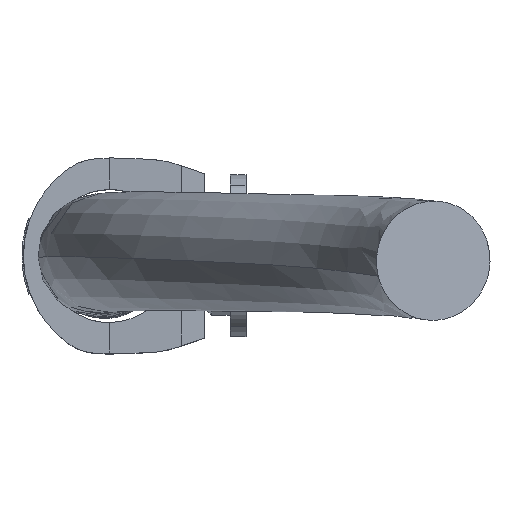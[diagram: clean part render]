
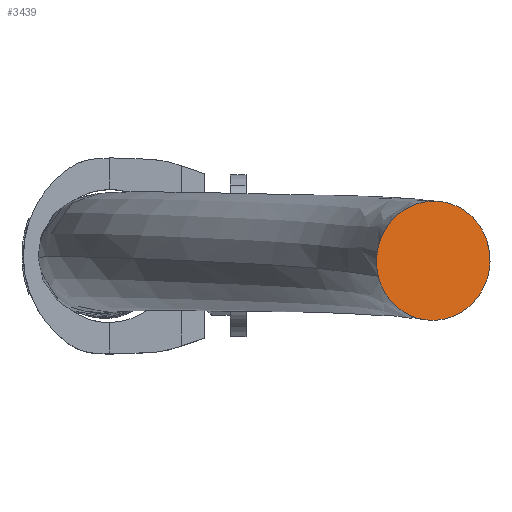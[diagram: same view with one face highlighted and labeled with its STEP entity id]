
A CAD part, left-side view. The second image highlights one B-rep face of the part: STEP entity #3439.
In plain terms, the highlighted planar face has unit normal (-0.951, -0.308, -0.036).
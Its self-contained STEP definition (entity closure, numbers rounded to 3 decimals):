
#52 = CARTESIAN_POINT ( 'NONE',  ( 642.772, 3.286, 2268.062 ) ) ;
#55 = CARTESIAN_POINT ( 'NONE',  ( 616.808, 86.195, 2244.568 ) ) ;
#679 = CARTESIAN_POINT ( 'NONE',  ( 629.79, 44.74, 2256.315 ) ) ;
#681 = PLANE ( 'NONE',  #4286 ) ;
#996 = EDGE_LOOP ( 'NONE', ( #4829, #4396 ) ) ;
#1549 = DIRECTION ( 'NONE',  ( -0.309, 0.95, 0.033 ) ) ;
#1550 = DIRECTION ( 'NONE',  ( -0.951, -0.308, -0.036 ) ) ;
#1812 = CARTESIAN_POINT ( 'NONE',  ( 642.772, 3.286, 2268.062 ) ) ;
#1813 = CARTESIAN_POINT ( 'NONE',  ( 643.442, 1.886, 2262.379 ) ) ;
#1818 = CARTESIAN_POINT ( 'NONE',  ( 643.774, 1.565, 2256.394 ) ) ;
#1819 = CARTESIAN_POINT ( 'NONE',  ( 643.711, 3.13, 2244.717 ) ) ;
#1820 = CARTESIAN_POINT ( 'NONE',  ( 643.317, 5.016, 2239.031 ) ) ;
#1821 = CARTESIAN_POINT ( 'NONE',  ( 641.861, 10.71, 2228.821 ) ) ;
#1822 = CARTESIAN_POINT ( 'NONE',  ( 640.8, 14.516, 2224.3 ) ) ;
#1823 = CARTESIAN_POINT ( 'NONE',  ( 638.173, 23.471, 2217.11 ) ) ;
#1824 = CARTESIAN_POINT ( 'NONE',  ( 636.608, 28.616, 2214.443 ) ) ;
#1825 = CARTESIAN_POINT ( 'NONE',  ( 633.209, 39.469, 2211.368 ) ) ;
#1826 = CARTESIAN_POINT ( 'NONE',  ( 631.377, 45.172, 2210.961 ) ) ;
#1827 = CARTESIAN_POINT ( 'NONE',  ( 627.724, 56.27, 2212.468 ) ) ;
#1828 = CARTESIAN_POINT ( 'NONE',  ( 625.905, 61.662, 2214.383 ) ) ;
#1829 = CARTESIAN_POINT ( 'NONE',  ( 622.554, 71.316, 2220.244 ) ) ;
#1830 = CARTESIAN_POINT ( 'NONE',  ( 621.024, 75.575, 2224.189 ) ) ;
#1831 = CARTESIAN_POINT ( 'NONE',  ( 618.485, 82.316, 2233.511 ) ) ;
#1832 = CARTESIAN_POINT ( 'NONE',  ( 617.478, 84.795, 2238.886 ) ) ;
#1833 = CARTESIAN_POINT ( 'NONE',  ( 616.808, 86.195, 2244.568 ) ) ;
#2515 = CARTESIAN_POINT ( 'NONE',  ( 616.808, 86.195, 2244.568 ) ) ;
#2516 = CARTESIAN_POINT ( 'NONE',  ( 616.138, 87.595, 2250.25 ) ) ;
#2521 = CARTESIAN_POINT ( 'NONE',  ( 615.806, 87.916, 2256.236 ) ) ;
#2522 = CARTESIAN_POINT ( 'NONE',  ( 615.868, 86.351, 2267.912 ) ) ;
#2523 = CARTESIAN_POINT ( 'NONE',  ( 616.263, 84.465, 2273.598 ) ) ;
#2524 = CARTESIAN_POINT ( 'NONE',  ( 617.719, 78.771, 2283.809 ) ) ;
#2525 = CARTESIAN_POINT ( 'NONE',  ( 618.779, 74.965, 2288.329 ) ) ;
#2526 = CARTESIAN_POINT ( 'NONE',  ( 621.406, 66.01, 2295.519 ) ) ;
#2527 = CARTESIAN_POINT ( 'NONE',  ( 622.972, 60.865, 2298.186 ) ) ;
#2528 = CARTESIAN_POINT ( 'NONE',  ( 626.37, 50.012, 2301.262 ) ) ;
#2529 = CARTESIAN_POINT ( 'NONE',  ( 628.202, 44.309, 2301.669 ) ) ;
#2530 = CARTESIAN_POINT ( 'NONE',  ( 631.855, 33.211, 2300.161 ) ) ;
#2531 = CARTESIAN_POINT ( 'NONE',  ( 633.675, 27.819, 2298.247 ) ) ;
#2532 = CARTESIAN_POINT ( 'NONE',  ( 637.025, 18.165, 2292.385 ) ) ;
#2533 = CARTESIAN_POINT ( 'NONE',  ( 638.555, 13.906, 2288.441 ) ) ;
#2534 = CARTESIAN_POINT ( 'NONE',  ( 641.094, 7.165, 2279.118 ) ) ;
#2535 = CARTESIAN_POINT ( 'NONE',  ( 642.102, 4.686, 2273.744 ) ) ;
#2536 = CARTESIAN_POINT ( 'NONE',  ( 642.772, 3.286, 2268.062 ) ) ;
#2965 = VERTEX_POINT ( 'NONE', #55 ) ;
#2978 = VERTEX_POINT ( 'NONE', #52 ) ;
#3109 = EDGE_CURVE ( 'NONE', #2978, #2965, #3471, .T. ) ;
#3315 = EDGE_CURVE ( 'NONE', #2965, #2978, #3485, .T. ) ;
#3439 = ADVANCED_FACE ( 'NONE', ( #4069 ), #681, .T. ) ;
#3471 = B_SPLINE_CURVE_WITH_KNOTS ( 'NONE', 3,
 ( #1812, #1813, #1818, #1819, #1820, #1821, #1822, #1823, #1824, #1825, #1826, #1827, #1828, #1829, #1830, #1831, #1832, #1833 ),
 .UNSPECIFIED., .F., .F.,
 ( 4, 2, 2, 2, 2, 2, 2, 2, 4 ),
 ( 0., 0.018, 0.035, 0.053, 0.07, 0.088, 0.106, 0.123, 0.141 ),
 .UNSPECIFIED. ) ;
#3485 = B_SPLINE_CURVE_WITH_KNOTS ( 'NONE', 3,
 ( #2515, #2516, #2521, #2522, #2523, #2524, #2525, #2526, #2527, #2528, #2529, #2530, #2531, #2532, #2533, #2534, #2535, #2536 ),
 .UNSPECIFIED., .F., .F.,
 ( 4, 2, 2, 2, 2, 2, 2, 2, 4 ),
 ( 0., 0.018, 0.035, 0.053, 0.07, 0.088, 0.106, 0.123, 0.141 ),
 .UNSPECIFIED. ) ;
#4069 = FACE_OUTER_BOUND ( 'NONE', #996, .T. ) ;
#4286 = AXIS2_PLACEMENT_3D ( 'NONE', #679, #1550, #1549 ) ;
#4396 = ORIENTED_EDGE ( 'NONE', *, *, #3315, .F. ) ;
#4829 = ORIENTED_EDGE ( 'NONE', *, *, #3109, .F. ) ;
